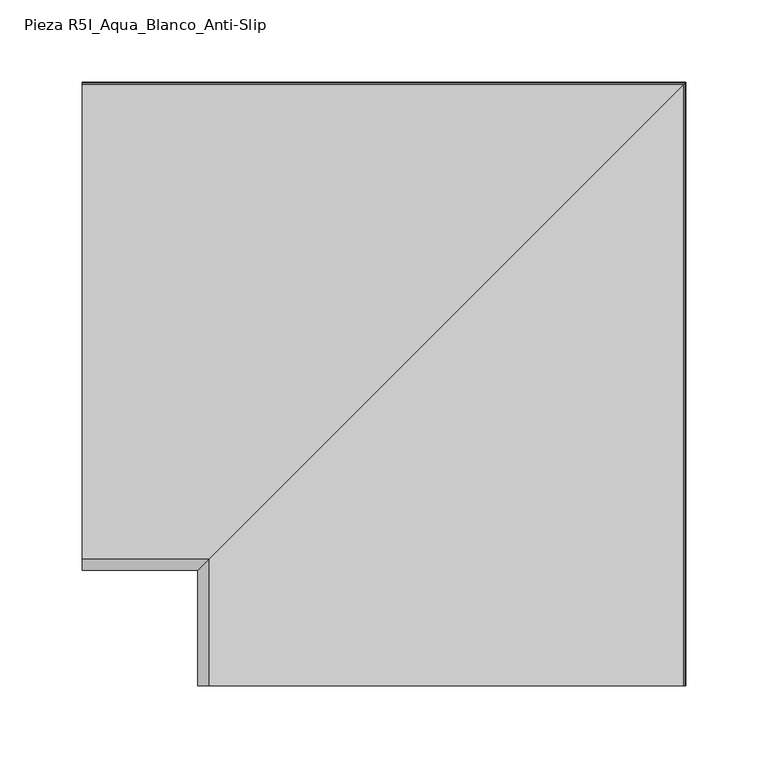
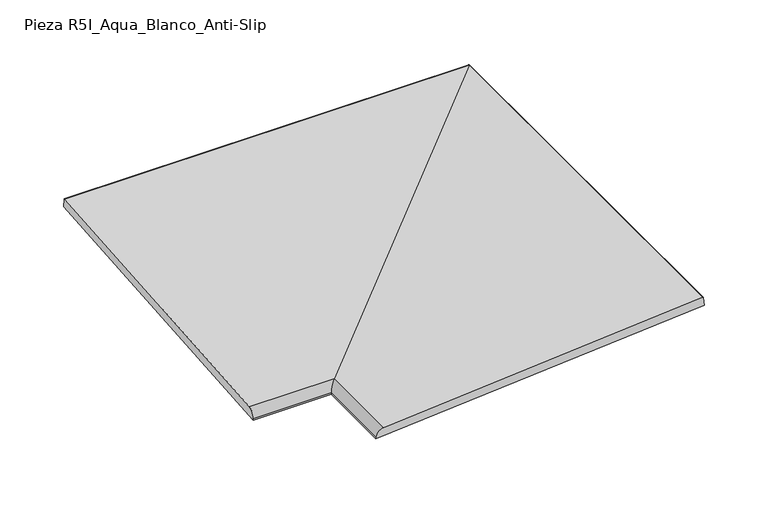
"""IFC4 building model written with IfcOpenShell, lengths in millimetres: proxy geometry, ROSA GRES_R5I : Pieza R5I_Aqua_Blanco_Anti-Slip."""

import ifcopenshell
import ifcopenshell.guid

model = None  # the IFC model being written
_history = None  # IfcOwnerHistory: only IFC2X3 demands one
_inside = {}  # id of a spatial element -> (the spatial element, [elements in it])
_under = {}  # id of a project, library or spatial element -> (it, [spatial elements below it])
_declared = {}  # id of a project -> (the project, [libraries it declares])
_typed = {}  # id of a type object -> (the type object, [elements of that type])
_made_of = {}  # id of a material, layer set ... -> (it, [elements and type objects made of it])


def new_model(schema):
    """Start an empty IFC model of exactly this schema.

    Asked for "IFC4X3", IfcOpenShell would pick the latest addendum, in which some entities
    have other attributes; the version numbers below select the first issue.
    IFC2X3 requires an IfcOwnerHistory on every rooted entity: one is made here for all.
    """
    global model, _history
    if schema == "IFC4X3":
        model = ifcopenshell.file(schema_version=(4, 3, 0, 0))
    else:
        model = ifcopenshell.file(schema=schema)
    _inside.clear()
    _under.clear()
    _declared.clear()
    _typed.clear()
    _made_of.clear()
    _history = None
    if model.schema == "IFC2X3":
        org = make("IfcOrganization", Name="unknown")
        user = make(
            "IfcPersonAndOrganization",
            ThePerson=make("IfcPerson", FamilyName="unknown"),
            TheOrganization=org,
        )
        app = make(
            "IfcApplication",
            ApplicationDeveloper=org,
            Version="unknown",
            ApplicationFullName="unknown",
            ApplicationIdentifier="unknown",
        )
        _history = make(
            "IfcOwnerHistory",
            OwningUser=user,
            OwningApplication=app,
            ChangeAction="ADDED",
            CreationDate=0,
        )
    return model


def make(cls, **values):
    """One entity of the class cls with the attributes given. An attribute that is None is left unset."""
    return model.create_entity(
        cls, **{name: value for name, value in values.items() if value is not None}
    )


def rooted(cls, **values):
    """An entity with a GlobalId (a new one), such as an element, a storey or a relation."""
    return make(cls, GlobalId=ifcopenshell.guid.new(), OwnerHistory=_history, **values)


def si_unit(unit_type, name, prefix=None):
    """IfcSIUnit, for example si_unit("LENGTHUNIT", "METRE", prefix="MILLI")."""
    return make("IfcSIUnit", UnitType=unit_type, Prefix=prefix, Name=name)


def assignment(units):
    """IfcUnitAssignment: the units of a project."""
    return None if units is None else make("IfcUnitAssignment", Units=units)


def point(xyz):
    """IfcCartesianPoint."""
    return None if xyz is None else make("IfcCartesianPoint", Coordinates=xyz)


def direction(xyz):
    """IfcDirection."""
    return None if xyz is None else make("IfcDirection", DirectionRatios=xyz)


def frame(location, z_axis=None, x_axis=None):
    """IfcAxis2Placement3D, a coordinate frame: its origin and axes. An axis left out is left unset."""
    return make(
        "IfcAxis2Placement3D",
        Location=point(location),
        Axis=direction(z_axis),
        RefDirection=direction(x_axis),
    )


def origin():
    """The frame at (0, 0, 0) with its axes left unset."""
    return frame((0.0, 0.0, 0.0))


def place(relative_to, where):
    """IfcLocalPlacement: puts the frame where relative to a parent placement (None: the world)."""
    return make(
        "IfcLocalPlacement", PlacementRelTo=relative_to, RelativePlacement=where
    )


def context(
    kind, dimensions, precision=None, world=None, true_north=None, identifier=None
):
    """IfcGeometricRepresentationContext, for example the 3D "Model" context."""
    return make(
        "IfcGeometricRepresentationContext",
        ContextIdentifier=identifier,
        ContextType=kind,
        CoordinateSpaceDimension=dimensions,
        Precision=precision,
        WorldCoordinateSystem=world,
        TrueNorth=true_north,
    )


def project(units=None, contexts=None):
    """IfcProject with its units and contexts."""
    return rooted(
        "IfcProject",
        Name="project",
        RepresentationContexts=contexts,
        UnitsInContext=assignment(units),
    )


def spatial(cls, under=None, at=None, **own):
    """A site, building, storey or space (cls), placed at a placement, below another one or the project."""
    s = rooted(cls, ObjectPlacement=at, **own)
    if under is not None:
        _under.setdefault(under.id(), (under, []))[1].append(s)
    return s


def circle_curve(where, radius):
    """IfcCircle in the frame where."""
    return make("IfcCircle", Position=where, Radius=radius)


def ellipse_curve(where, semi_axis1, semi_axis2):
    """IfcEllipse in the frame where."""
    return make(
        "IfcEllipse", Position=where, SemiAxis1=semi_axis1, SemiAxis2=semi_axis2
    )


def shape(context_of_items, identifier, shape_type, items):
    """IfcShapeRepresentation: the items that make up one representation, for example the "Body"."""
    return make(
        "IfcShapeRepresentation",
        ContextOfItems=context_of_items,
        RepresentationIdentifier=identifier,
        RepresentationType=shape_type,
        Items=items,
    )


def source(mapping_origin, context_of_items, identifier, shape_type, items):
    """IfcRepresentationMap: a shape defined once, which mapped items show again and again."""
    return make(
        "IfcRepresentationMap",
        MappingOrigin=mapping_origin,
        MappedRepresentation=shape(context_of_items, identifier, shape_type, items),
    )


def transform(
    local_origin,
    x_axis=None,
    y_axis=None,
    z_axis=None,
    scale=None,
    scale2=None,
    scale3=None,
    uniform=True,
):
    """IfcCartesianTransformationOperator3D, or its non-uniform kind. x_axis, y_axis, z_axis: its Axis1, 2, 3."""
    if uniform:
        return make(
            "IfcCartesianTransformationOperator3D",
            Axis1=direction(x_axis),
            Axis2=direction(y_axis),
            LocalOrigin=point(local_origin),
            Scale=scale,
            Axis3=direction(z_axis),
        )
    return make(
        "IfcCartesianTransformationOperator3DnonUniform",
        Axis1=direction(x_axis),
        Axis2=direction(y_axis),
        LocalOrigin=point(local_origin),
        Scale=scale,
        Axis3=direction(z_axis),
        Scale2=scale2,
        Scale3=scale3,
    )


def mapped(mapping_source, mapping_target):
    """IfcMappedItem: shows the shape of a source again, moved by a transform."""
    return make(
        "IfcMappedItem", MappingSource=mapping_source, MappingTarget=mapping_target
    )


def made_of(thing, what):
    """Note that an element or type object is made of a material, layer set ...; save() writes the relation."""
    if what is not None:
        _made_of.setdefault(what.id(), (what, []))[1].append(thing)
    return thing


def element(
    cls,
    number,
    at=None,
    inside=None,
    cuts=None,
    type_object=None,
    material=None,
    context=None,
    identifier="Body",
    shape_type=None,
    held_by="IfcProductDefinitionShape",
    body=None,
    shapes=None,
    **own,
):
    """One element of the class cls, such as IfcWall. Its Tag is "e" and its number.

    at: its placement. inside: the storey or other place that contains it. cuts: it is an
    opening in that element (IfcRelVoidsElement). A single representation is given by context,
    identifier, shape_type and body (its items); several are given by shapes. held_by: the class
    of the entity that holds the representations. save() writes the other relations.
    """
    e = rooted(cls, Tag="e%d" % number, ObjectPlacement=at, **own)
    if body is not None:
        shapes = [shape(context, identifier, shape_type, body)]
    if shapes is not None:
        e.Representation = make(held_by, Representations=shapes)
    if inside is not None:
        _inside.setdefault(inside.id(), (inside, []))[1].append(e)
    if cuts is not None:
        rooted(
            "IfcRelVoidsElement", RelatingBuildingElement=cuts, RelatedOpeningElement=e
        )
    if type_object is not None:
        _typed.setdefault(type_object.id(), (type_object, []))[1].append(e)
    return made_of(e, material)


def aggregate(whole, parts):
    """IfcRelAggregates: a whole, such as a stair, and the parts it consists of."""
    return rooted("IfcRelAggregates", RelatingObject=whole, RelatedObjects=parts)


def save(model, path):
    """Write the relations noted so far, then the file.

    IfcRelAggregates (storeys below a building ...), IfcRelContainedInSpatialStructure (elements
    in a storey), IfcRelDefinesByType, IfcRelAssociatesMaterial and IfcRelDeclares: one each for
    every whole, place, type object, material and project.
    """
    for whole, parts in _under.values():
        aggregate(whole, parts)
    for where, things in _inside.values():
        rooted(
            "IfcRelContainedInSpatialStructure",
            RelatedElements=things,
            RelatingStructure=where,
        )
    for kind, things in _typed.values():
        rooted("IfcRelDefinesByType", RelatedObjects=things, RelatingType=kind)
    for what, things in _made_of.values():
        rooted("IfcRelAssociatesMaterial", RelatedObjects=things, RelatingMaterial=what)
    for by, libraries in _declared.values():
        rooted("IfcRelDeclares", RelatingContext=by, RelatedDefinitions=libraries)
    model.write(path)


def plane_surface(at):
    """IfcPlane: the flat surface through the origin of the frame at, square to its z axis."""
    return make("IfcPlane", Position=at)


def cylinder_surface(at, radius):
    """IfcCylindricalSurface: all points at the distance radius from the z axis of the frame at."""
    return make("IfcCylindricalSurface", Position=at, Radius=radius)


def advanced_brep(points, edges, surfaces, faces):
    """IfcAdvancedBrep: a solid bounded by faces that lie on surfaces and meet in shared edges.

    An edge is (start, end): straight between two places in points (the first is 0);
    or (start, end, curve); or (start, end, curve, False) where it runs against its curve.
    A face is (place in surfaces, loops), or (place, loops, False) where it looks against
    its surface's normal. A loop lists edges by number (the first is 1), with a minus sign
    where the edge is run from its end to its start. The first loop is the outer one.
    """
    corners = [point(p) for p in points]
    vertices = [make("IfcVertexPoint", VertexGeometry=c) for c in corners]
    made = []
    for start, end, *more in edges:
        made.append(
            make(
                "IfcEdgeCurve",
                EdgeStart=vertices[start],
                EdgeEnd=vertices[end],
                EdgeGeometry=more[0] if more else make("IfcPolyline", Points=[corners[start], corners[end]]),
                SameSense=more[1] if len(more) > 1 else True,
            )
        )
    hull = []
    for where, loops, *sense in faces:
        bounds = []
        for j, loop in enumerate(loops):
            ring = [make("IfcOrientedEdge", EdgeElement=made[abs(k) - 1], Orientation=k > 0) for k in loop]
            bounds.append(
                make(
                    "IfcFaceOuterBound" if j == 0 else "IfcFaceBound",
                    Bound=make("IfcEdgeLoop", EdgeList=ring),
                    Orientation=True,
                )
            )
        hull.append(make("IfcAdvancedFace", Bounds=bounds, FaceSurface=surfaces[where], SameSense=sense[0] if sense else True))
    return make("IfcAdvancedBrep", Outer=make("IfcClosedShell", CfsFaces=hull))


def pieza_r5i_aqua_blanco_anti_slip_38d46c03(model_context):
    return source(origin(), model_context, "Body", "AdvancedBrep", [
        advanced_brep(
        [(70.1539646, 70.1539646, 196.3880826), (70.0315861, 70.0315861, 197.89159), (0.0, 70.0315861, 197.89159), (0.0, 70.1539646, 196.3880826), (76.6234074, 76.6234074, 204.9411222), (0.0, 76.6234074, 204.9411222), (364.6716123, 364.6716123, 228.3869063), (0.0, 364.6716123, 228.3869063), (365.5494776, 365.5494776, 228.1676059), (0.0, 365.5494776, 228.1676059), (366.1749837, 366.1749837, 220.4828167), (0.0, 366.1749837, 220.4828167), (70.1539646, 0.0, 196.3880826), (70.0315861, 0.0, 197.89159), (76.6234074, 0.0, 204.9411222), (364.6716123, 0.0, 228.3869063), (365.5494776, 0.0, 228.1676059), (366.1749837, 0.0, 220.4828167)],
        [
            (0, 1),
            (1, 2),
            (2, 3),
            (3, 0),
            (1, 4, ellipse_curve(frame((77.8482549, 77.8482549, 197.189121), z_axis=(-0.7071067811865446, 0.7071067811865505, 0.0), x_axis=(-0.7071067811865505, -0.7071067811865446, 0.0)), 11.0989886, 7.8481701)),
            (4, 5),
            (5, 2, circle_curve(frame((0.0, 77.8482549, 197.189121), z_axis=(1.0, 0.0, 0.0), x_axis=(0.0, -1.0, 0.0)), 7.8481701)),
            (4, 6),
            (6, 7),
            (7, 5),
            (6, 8, ellipse_curve(frame((364.7862135, 364.7862135, 226.9789488), z_axis=(-0.7071067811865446, 0.7071067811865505, 0.0), x_axis=(-0.7071067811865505, -0.7071067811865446, 0.0)), 1.9977377, 1.4126139)),
            (8, 9),
            (9, 7, circle_curve(frame((0.0, 364.7862135, 226.9789488), z_axis=(1.0, 0.0, 0.0), x_axis=(0.0, -1.0, 0.0)), 1.4126139)),
            (8, 10),
            (10, 11),
            (11, 9),
            (10, 0),
            (3, 11),
            (0, 12),
            (12, 13),
            (13, 1),
            (13, 14, circle_curve(frame((77.8482549, 0.0, 197.189121), z_axis=(0.0, 1.0, 0.0), x_axis=(-1.0, 0.0, 0.0)), 7.8481701)),
            (14, 4),
            (14, 15),
            (15, 6),
            (15, 16, circle_curve(frame((364.7862135, 0.0, 226.9789488), z_axis=(0.0, 1.0, 0.0), x_axis=(-1.0, 0.0, 0.0)), 1.4126139)),
            (16, 8),
            (16, 17),
            (17, 10),
            (17, 12),
        ],
        [
            plane_surface(frame((-4.5, 70.1539646, 196.3880826), z_axis=(0.0, -0.996703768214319, -0.08112705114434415), x_axis=(1.0, 0.0, 0.0))),
            cylinder_surface(frame((-4.5, 77.8482549, 197.189121), z_axis=(-1.0, 0.0, 0.0), x_axis=(0.0, -1.0, 0.0)), 7.8481701),
            plane_surface(frame((-4.5, 76.6234074, 204.9411222), z_axis=(0.0, -0.08112705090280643, 0.9967037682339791), x_axis=(1.0, 0.0, 0.0))),
            cylinder_surface(frame((-4.5, 364.7862135, 226.9789488), z_axis=(-1.0, 0.0, 0.0), x_axis=(0.0, -1.0, 0.0)), 1.4126139),
            plane_surface(frame((-4.5, 365.5494776, 228.1676059), z_axis=(0.0, 0.9967037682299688, 0.08112705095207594), x_axis=(1.0, 0.0, 0.0))),
            plane_surface(frame((-4.5, 366.1749837, 220.4828167), z_axis=(0.0, 0.08112705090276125, -0.9967037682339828), x_axis=(1.0, 0.0, 0.0))),
            plane_surface(frame((70.1539646, 70.1539646, 196.3880826), z_axis=(-0.996703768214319, 0.0, -0.08112705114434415), x_axis=(0.0, -1.0, 0.0))),
            cylinder_surface(frame((77.8482549, 0.0, 197.189121), z_axis=(0.0, 1.0, 0.0), x_axis=(-1.0, 0.0, 0.0)), 7.8481701),
            plane_surface(frame((76.6234074, 76.6234074, 204.9411222), z_axis=(-0.08112705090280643, 0.0, 0.9967037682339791), x_axis=(0.0, -1.0, 0.0))),
            cylinder_surface(frame((364.7862135, 0.0, 226.9789488), z_axis=(0.0, 1.0, 0.0), x_axis=(-1.0, 0.0, 0.0)), 1.4126139),
            plane_surface(frame((365.5494776, 365.5494776, 228.1676059), z_axis=(0.9967037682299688, 0.0, 0.08112705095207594), x_axis=(0.0, -1.0, 0.0))),
            plane_surface(frame((366.1749837, 366.1749837, 220.4828167), z_axis=(0.08112705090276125, 0.0, -0.9967037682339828), x_axis=(0.0, -1.0, 0.0))),
            plane_surface(frame((0.0, 60.7522831, 234.3997989), z_axis=(-1.0, 0.0, 0.0), x_axis=(0.0, 0.0, -1.0))),
            plane_surface(frame((376.8848139, 0.0, 234.3997989), z_axis=(0.0, -1.0, 0.0), x_axis=(0.0, 0.0, -1.0))),
        ],
        [
            (0, [[1, 2, 3, 4]]),
            (1, [[5, 6, 7, -2]]),
            (2, [[8, 9, 10, -6]]),
            (3, [[11, 12, 13, -9]]),
            (4, [[14, 15, 16, -12]]),
            (5, [[17, -4, 18, -15]]),
            (6, [[-1, 19, 20, 21]]),
            (7, [[-5, -21, 22, 23]]),
            (8, [[-8, -23, 24, 25]]),
            (9, [[-11, -25, 26, 27]]),
            (10, [[-14, -27, 28, 29]]),
            (11, [[-17, -29, 30, -19]]),
            (12, [[-3, -7, -10, -13, -16, -18]]),
            (13, [[-20, -30, -28, -26, -24, -22]]),
        ],
    ),
    ])


if __name__ == "__main__":
    model = new_model("IFC4")
    model_context = context("Model", 3, world=origin())
    ifc_project = project(units=[si_unit("LENGTHUNIT", "METRE", prefix="MILLI")], contexts=[model_context])
    site = spatial("IfcSite", under=ifc_project)
    building = spatial("IfcBuilding", under=site)
    placement = place(None, origin())
    pieza_r5i_aqua_blanco_anti_slip_shape = pieza_r5i_aqua_blanco_anti_slip_38d46c03(model_context)
    element("IfcBuildingElementProxy", 1, Name="ROSA GRES_R5I : Pieza R5I_Aqua_Blanco_Anti-Slip", ObjectType="ROSA GRES_R5I : Pieza R5I_Aqua_Blanco_Anti-Slip", at=placement, inside=building, context=model_context, shape_type="MappedRepresentation", body=[
        mapped(pieza_r5i_aqua_blanco_anti_slip_shape, transform((0.0, 0.0, 0.0), x_axis=(1.0, 0.0, 0.0), y_axis=(0.0, 1.0, 0.0), z_axis=(0.0, 0.0, 1.0))),
    ])
    save(model, "model.ifc")
